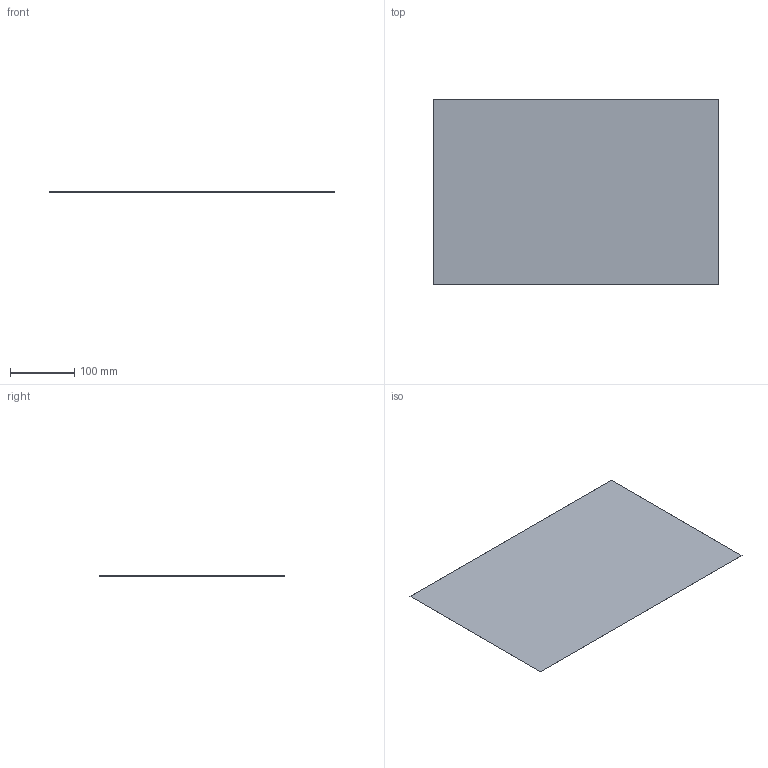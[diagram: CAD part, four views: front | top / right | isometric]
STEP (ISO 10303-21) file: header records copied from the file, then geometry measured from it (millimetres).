
FILE_DESCRIPTION(/* description */ ('STEP AP242','CAx-IF Rec.Pracs.---Representation and Presentation of Product Manufacturing Information (PMI)---4.0---2014-10-13','CAx-IF Rec.Pracs.---3D Tessellated Geometry---0.4---2014-09-14','2;1'),/* implementation_level */ '2;1');
FILE_NAME(/* name */ '67647eca8d6b2f7c4bec55de',/* time_stamp */ '2024-12-19T20:15:06Z',/* author */ (''),/* organization */ (''),/* preprocessor_version */ 'ST-DEVELOPER v20',/* originating_system */ 'ONSHAPE BY PTC INC, 1.191',/* authorisation */ ' ');
FILE_SCHEMA (('AP242_MANAGED_MODEL_BASED_3D_ENGINEERING_MIM_LF { 1 0 10303 442 1 1 4 }'));
Length unit declared in the file: metre
Products named in the file (1): Part 1
Bounding box: 444.5 x 288.93 x 0.08 mm (x, y, z)
Volume: 9760.5 mm3; surface area: 256965.8 mm2
Topology: 1 solids, 1 shells, 6 faces, 12 edges, 8 vertices
Faces by surface type: plane 6
Entity records: 180 total; most frequent: CARTESIAN_POINT 27, DIRECTION 26, ORIENTED_EDGE 24, EDGE_CURVE 12, LINE 12, VECTOR 12, VERTEX_POINT 8, AXIS2_PLACEMENT_3D 7
